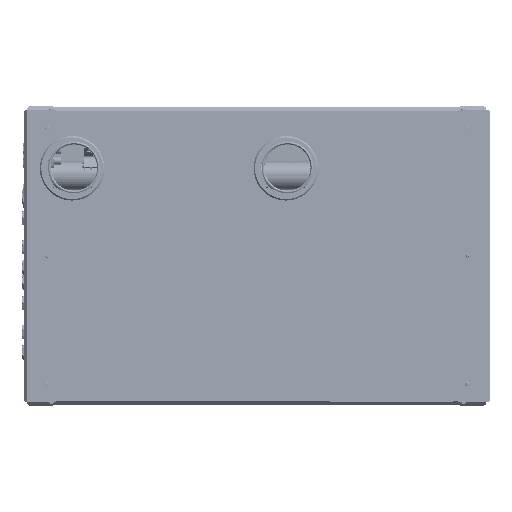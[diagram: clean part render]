
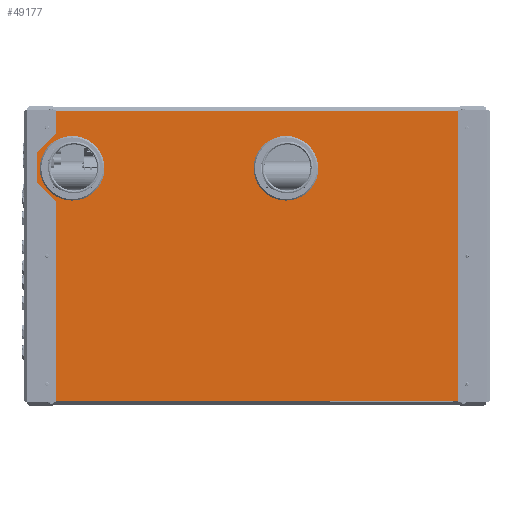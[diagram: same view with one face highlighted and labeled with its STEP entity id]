
A CAD part, top view. The second image highlights one B-rep face of the part: STEP entity #49177.
In plain terms, the highlighted planar face has unit normal (0, 0.018, 1) as drawn and (-0.017, 0, 1) by its records, which use the part's own axes.
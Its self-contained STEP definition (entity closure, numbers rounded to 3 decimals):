
#4935=CIRCLE('',#53465,1.75);
#4936=CIRCLE('',#53466,1.75);
#4937=CIRCLE('',#53467,1.75);
#4938=CIRCLE('',#53468,1.75);
#4939=CIRCLE('',#53469,1.75);
#4940=CIRCLE('',#53470,1.75);
#4941=CIRCLE('',#53471,68.);
#4942=CIRCLE('',#53472,68.);
#14195=ORIENTED_EDGE('',*,*,#21402,.T.);
#14196=ORIENTED_EDGE('',*,*,#21403,.F.);
#14197=ORIENTED_EDGE('',*,*,#21404,.F.);
#14198=ORIENTED_EDGE('',*,*,#21405,.F.);
#14199=ORIENTED_EDGE('',*,*,#21406,.T.);
#14200=ORIENTED_EDGE('',*,*,#21407,.T.);
#14201=ORIENTED_EDGE('',*,*,#21408,.F.);
#14202=ORIENTED_EDGE('',*,*,#21353,.T.);
#14203=ORIENTED_EDGE('',*,*,#21409,.F.);
#14204=ORIENTED_EDGE('',*,*,#21410,.F.);
#14205=ORIENTED_EDGE('',*,*,#21411,.T.);
#14206=ORIENTED_EDGE('',*,*,#21412,.F.);
#21353=EDGE_CURVE('',#25872,#25871,#29564,.T.);
#21402=EDGE_CURVE('',#25910,#25910,#4935,.T.);
#21403=EDGE_CURVE('',#25911,#25911,#4936,.T.);
#21404=EDGE_CURVE('',#25912,#25912,#4937,.T.);
#21405=EDGE_CURVE('',#25913,#25913,#4938,.T.);
#21406=EDGE_CURVE('',#25914,#25914,#4939,.T.);
#21407=EDGE_CURVE('',#25915,#25915,#4940,.T.);
#21408=EDGE_CURVE('',#25916,#25916,#4941,.F.);
#21409=EDGE_CURVE('',#25917,#25871,#29575,.T.);
#21410=EDGE_CURVE('',#25918,#25917,#29576,.T.);
#21411=EDGE_CURVE('',#25918,#25872,#29577,.T.);
#21412=EDGE_CURVE('',#25919,#25919,#4942,.F.);
#25871=VERTEX_POINT('',#95908);
#25872=VERTEX_POINT('',#95910);
#25910=VERTEX_POINT('',#96004);
#25911=VERTEX_POINT('',#96006);
#25912=VERTEX_POINT('',#96008);
#25913=VERTEX_POINT('',#96010);
#25914=VERTEX_POINT('',#96012);
#25915=VERTEX_POINT('',#96014);
#25916=VERTEX_POINT('',#96016);
#25917=VERTEX_POINT('',#96018);
#25918=VERTEX_POINT('',#96020);
#25919=VERTEX_POINT('',#96023);
#29564=LINE('',#95909,#33219);
#29575=LINE('',#96017,#33230);
#29576=LINE('',#96019,#33231);
#29577=LINE('',#96021,#33232);
#33219=VECTOR('',#63403,1000.);
#33230=VECTOR('',#63518,1000.);
#33231=VECTOR('',#63519,1000.);
#33232=VECTOR('',#63520,1000.);
#37128=EDGE_LOOP('',(#14195));
#37129=EDGE_LOOP('',(#14196));
#37130=EDGE_LOOP('',(#14197));
#37131=EDGE_LOOP('',(#14198));
#37132=EDGE_LOOP('',(#14199));
#37133=EDGE_LOOP('',(#14200));
#37134=EDGE_LOOP('',(#14201));
#37135=EDGE_LOOP('',(#14202,#14203,#14204,#14205));
#37136=EDGE_LOOP('',(#14206));
#40987=FACE_BOUND('',#37128,.T.);
#40988=FACE_BOUND('',#37129,.T.);
#40989=FACE_BOUND('',#37130,.T.);
#40990=FACE_BOUND('',#37131,.T.);
#40991=FACE_BOUND('',#37132,.T.);
#40992=FACE_BOUND('',#37133,.T.);
#40993=FACE_BOUND('',#37134,.T.);
#40994=FACE_BOUND('',#37135,.T.);
#40995=FACE_BOUND('',#37136,.T.);
#43016=PLANE('',#53464);
#49177=ADVANCED_FACE('',(#40987,#40988,#40989,#40990,#40991,#40992,#40993,
#40994,#40995),#43016,.F.);
#53464=AXIS2_PLACEMENT_3D('',#96002,#63502,#63503);
#53465=AXIS2_PLACEMENT_3D('',#96003,#63504,#63505);
#53466=AXIS2_PLACEMENT_3D('',#96005,#63506,#63507);
#53467=AXIS2_PLACEMENT_3D('',#96007,#63508,#63509);
#53468=AXIS2_PLACEMENT_3D('',#96009,#63510,#63511);
#53469=AXIS2_PLACEMENT_3D('',#96011,#63512,#63513);
#53470=AXIS2_PLACEMENT_3D('',#96013,#63514,#63515);
#53471=AXIS2_PLACEMENT_3D('',#96015,#63516,#63517);
#53472=AXIS2_PLACEMENT_3D('',#96022,#63521,#63522);
#63403=DIRECTION('',(-1.,0.,-0.017));
#63502=DIRECTION('',(0.017,0.,-1.));
#63503=DIRECTION('',(-1.,0.,-0.017));
#63504=DIRECTION('',(0.017,0.,-1.));
#63505=DIRECTION('',(0.,1.,0.));
#63506=DIRECTION('',(-0.017,0.,1.));
#63507=DIRECTION('',(0.,1.,0.));
#63508=DIRECTION('',(-0.017,0.,1.));
#63509=DIRECTION('',(0.,1.,0.));
#63510=DIRECTION('',(-0.017,0.,1.));
#63511=DIRECTION('',(0.,1.,0.));
#63512=DIRECTION('',(0.017,0.,-1.));
#63513=DIRECTION('',(0.,1.,0.));
#63514=DIRECTION('',(0.017,0.,-1.));
#63515=DIRECTION('',(0.,1.,0.));
#63516=DIRECTION('',(0.017,0.,-1.));
#63517=DIRECTION('',(-1.,0.,-0.017));
#63518=DIRECTION('',(0.,1.,0.));
#63519=DIRECTION('',(-1.,0.,-0.017));
#63520=DIRECTION('',(0.,1.,0.));
#63521=DIRECTION('',(0.017,0.,-1.));
#63522=DIRECTION('',(-1.,0.,-0.017));
#95908=CARTESIAN_POINT('',(-305.75,447.25,16.663));
#95909=CARTESIAN_POINT('',(305.75,447.25,27.337));
#95910=CARTESIAN_POINT('',(305.75,447.25,27.337));
#96002=CARTESIAN_POINT('',(305.75,-500.25,27.337));
#96003=CARTESIAN_POINT('',(-269.955,-457.75,17.288));
#96004=CARTESIAN_POINT('',(-269.955,-456.,17.288));
#96005=CARTESIAN_POINT('',(269.962,425.25,26.712));
#96006=CARTESIAN_POINT('',(269.962,427.,26.712));
#96007=CARTESIAN_POINT('',(0.003,425.25,22.));
#96008=CARTESIAN_POINT('',(0.003,427.,22.));
#96009=CARTESIAN_POINT('',(-269.955,425.25,17.288));
#96010=CARTESIAN_POINT('',(-269.955,427.,17.288));
#96011=CARTESIAN_POINT('',(269.962,-457.75,26.712));
#96012=CARTESIAN_POINT('',(269.962,-456.,26.712));
#96013=CARTESIAN_POINT('',(0.003,-457.75,22.));
#96014=CARTESIAN_POINT('',(0.003,-456.,22.));
#96015=CARTESIAN_POINT('',(-184.508,-404.75,18.779));
#96016=CARTESIAN_POINT('',(-252.498,-404.75,17.593));
#96017=CARTESIAN_POINT('',(-305.75,-500.25,16.663));
#96018=CARTESIAN_POINT('',(-305.75,-479.75,16.663));
#96019=CARTESIAN_POINT('',(305.75,-479.75,27.337));
#96020=CARTESIAN_POINT('',(305.75,-479.75,27.337));
#96021=CARTESIAN_POINT('',(305.75,-500.25,27.337));
#96022=CARTESIAN_POINT('',(-184.508,45.25,18.779));
#96023=CARTESIAN_POINT('',(-252.498,45.25,17.593));
